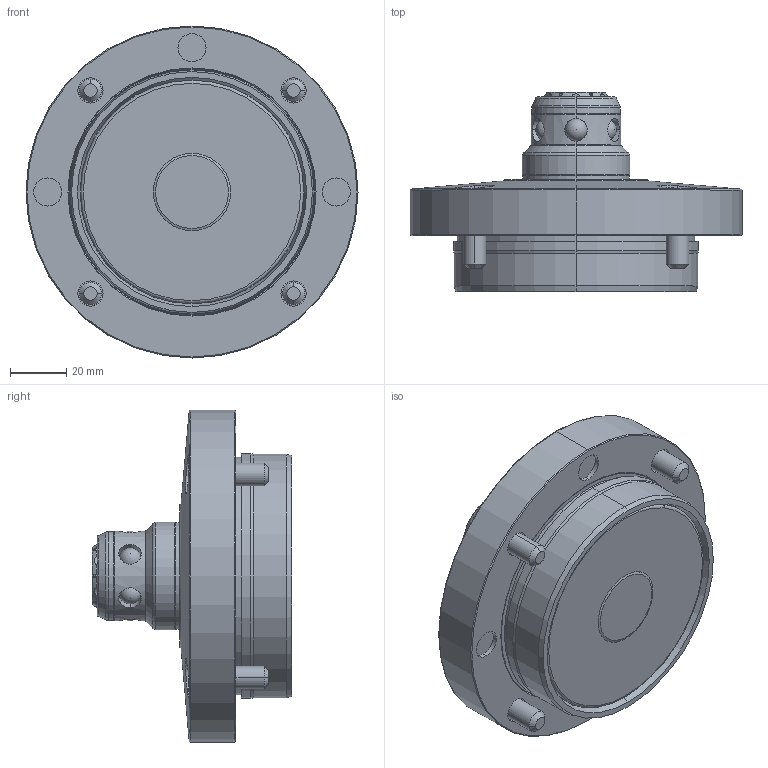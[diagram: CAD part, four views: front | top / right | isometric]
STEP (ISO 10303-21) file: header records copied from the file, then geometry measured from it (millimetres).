
FILE_DESCRIPTION (( 'STEP AP203' ), '1' );
FILE_NAME ('SWT0080-MG.step', '2010-08-04T09:04:57', ( ' ' ), ( ' ' ), 'SwSTEP 2.0', 'SolidWorks 2010', '' );
FILE_SCHEMA (( 'CONFIG_CONTROL_DESIGN' ));
Length unit declared in the file: millimetre
Products named in the file (5): SWT0080-MG; 4SW100160; 4SW100161; 鋼球_8; 6妏寠晅无倌_M8_20
Assembly tree (12 placements, depth 2):
  SWT0080-MG
    6妏寠晅无倌_M8_20  x4
    鋼球_8  x6
    4SW100160
    4SW100161
Bounding box: 118.5 x 71.2 x 118.5 mm (x, y, z)
Volume: 333095.1 mm3; surface area: 66278 mm2
Topology: 13 solids, 13 shells, 298 faces, 628 edges, 355 vertices
Faces by surface type: cylinder 103, plane 85, cone 78, torus 20, sphere 12
Entity records: 7027 total; most frequent: CARTESIAN_POINT 1953, DIRECTION 981, ORIENTED_EDGE 848, EDGE_CURVE 424, AXIS2_PLACEMENT_3D 419, VERTEX_POINT 252, EDGE_LOOP 238, CIRCLE 209
